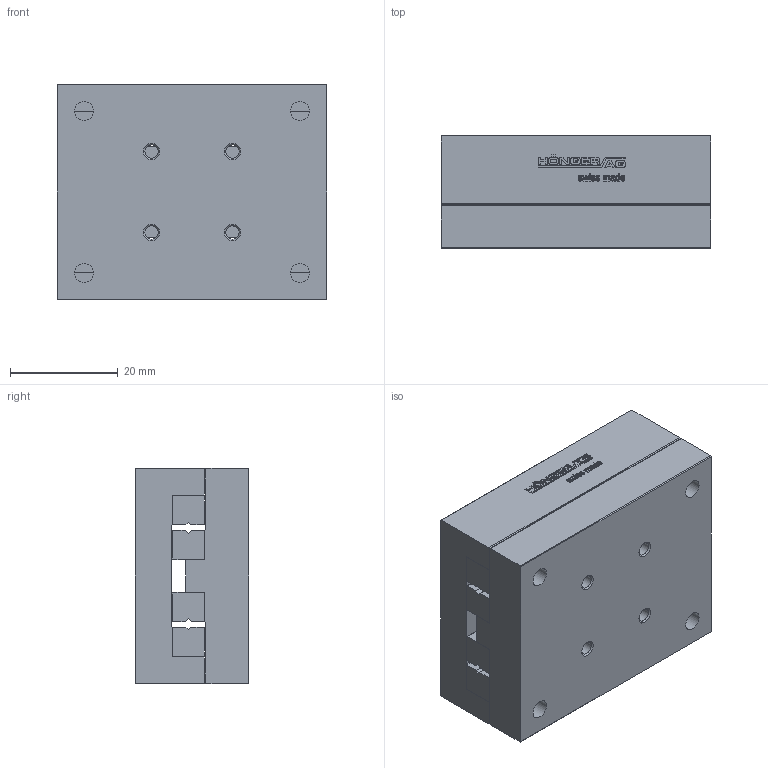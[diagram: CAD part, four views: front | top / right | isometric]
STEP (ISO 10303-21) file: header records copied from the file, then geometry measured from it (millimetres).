
FILE_DESCRIPTION(/* description */ ('STEP AP214'),/* implementation_level */ '2;1');
FILE_NAME(/* name */ 'NKL 2-50(0)',/* time_stamp */ '2025-04-23T07:57:55+02:00',/* author */ ('License CC BY-ND 4.0'),/* organization */ ('CADENAS'),/* preprocessor_version */ 'ST-DEVELOPER v19.3',/* originating_system */ 'PARTsolutions',/* authorisation */ ' ');
FILE_SCHEMA (('AUTOMOTIVE_DESIGN {1 0 10303 214 3 1 1}'));
Length unit declared in the file: millimetre
Products named in the file (3): NKL 2-50(0); NKL 2-50_1; NKL 2-50_2
Assembly tree (2 placements, depth 2):
  NKL 2-50(0)
    NKL 2-50_1
    NKL 2-50_2
Bounding box: 50 x 21 x 40 mm (x, y, z)
Volume: 39376.6 mm3; surface area: 16097 mm2
Topology: 2 solids, 2 shells, 609 faces, 1698 edges, 1120 vertices
Faces by surface type: cylinder 308, plane 285, cone 16
Full cylindrical faces by diameter (mm): 2.459 x8, 3.5 x4, 6 x4
Entity records: 19643 total; most frequent: DIRECTION 3522, CARTESIAN_POINT 3414, ORIENTED_EDGE 3324, EDGE_CURVE 1662, AXIS2_PLACEMENT_3D 1256, VERTEX_POINT 1116, LINE 1010, VECTOR 1010
